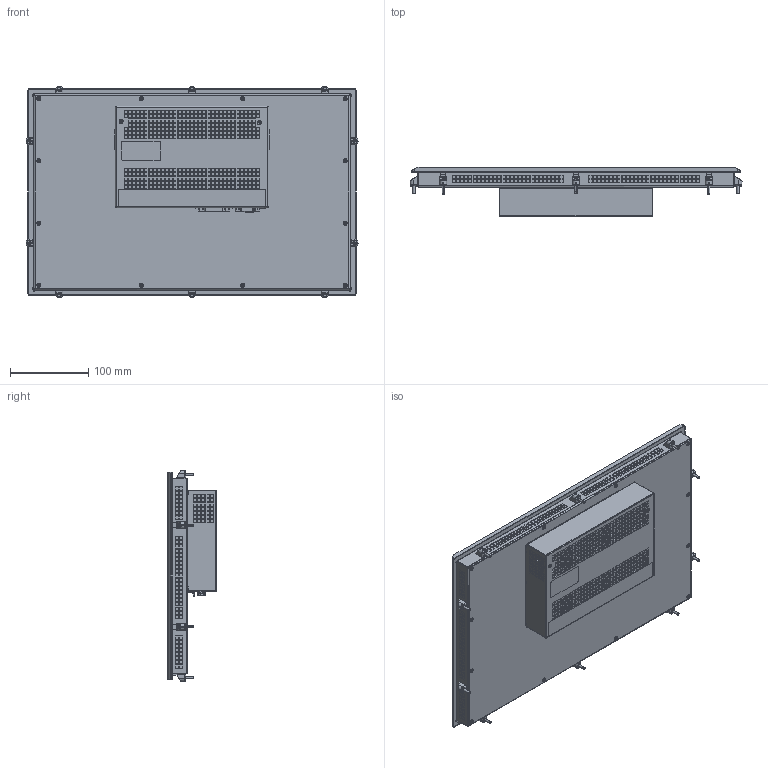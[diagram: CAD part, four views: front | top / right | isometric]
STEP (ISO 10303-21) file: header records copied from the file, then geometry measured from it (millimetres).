
FILE_DESCRIPTION (( 'STEP AP214' ), '1' );
FILE_NAME ('C6S14_156W_RES_UPS_DB15.STEP', '2019-07-29T09:54:47', ( '' ), ( '' ), 'SwSTEP 2.0', 'SolidWorks 2018', '' );
FILE_SCHEMA (( 'AUTOMOTIVE_DESIGN' ));
Length unit declared in the file: millimetre
Products named in the file (5): C6S14_156W_RES_UPS_1; C6S14_156W_RES_UPS_DB15; C6S14_156W_RES; DB15_Male_pin; C6S14_156W_RES_ASM
Assembly tree (4 placements, depth 3):
  C6S14_156W_RES_UPS_DB15
    C6S14_156W_RES_ASM
    C6S14_156W_RES
      C6S14_156W_RES_UPS_1
      DB15_Male_pin
Bounding box: 425 x 62.79 x 270 mm (x, y, z)
Surface area: 611481.5 mm2
Topology: 1 solids, 5570 shells, 5845 faces, 31802 edges, 31533 vertices
Faces by surface type: plane 4692, cylinder 779, cone 215, bspline 97, torus 42, sphere 20
Entity records: 358982 total; most frequent: CARTESIAN_POINT 128210, DIRECTION 38682, ORIENTED_EDGE 32385, EDGE_CURVE 31770, VERTEX_POINT 31519, LINE 23334, VECTOR 23334, AXIS2_PLACEMENT_3D 7674
